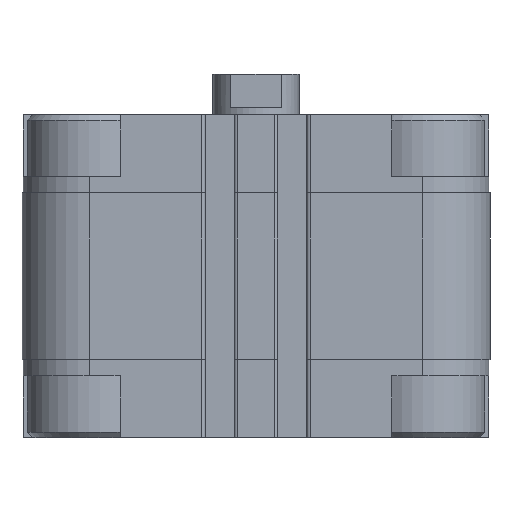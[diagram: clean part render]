
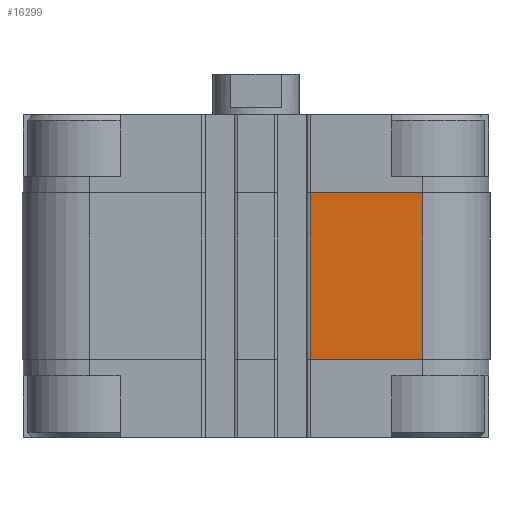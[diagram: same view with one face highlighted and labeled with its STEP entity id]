
A CAD part, front view. The second image highlights one B-rep face of the part: STEP entity #16299.
In plain terms, the highlighted planar face has unit normal (0, -1, 0).
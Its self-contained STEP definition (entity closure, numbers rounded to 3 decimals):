
#127 = ORIENTED_EDGE ( 'NONE', *, *, #8938, .T. ) ;
#408 = CARTESIAN_POINT ( 'NONE',  ( 10.05, -43.5, -45.5 ) ) ;
#1365 = EDGE_CURVE ( 'NONE', #4051, #17977, #17393, .T. ) ;
#1718 = VERTEX_POINT ( 'NONE', #15925 ) ;
#1903 = FACE_OUTER_BOUND ( 'NONE', #8397, .T. ) ;
#2244 = ORIENTED_EDGE ( 'NONE', *, *, #3087, .F. ) ;
#3087 = EDGE_CURVE ( 'NONE', #1718, #4051, #15387, .T. ) ;
#3539 = VECTOR ( 'NONE', #5177, 1000. ) ;
#4051 = VERTEX_POINT ( 'NONE', #5203 ) ;
#5089 = VECTOR ( 'NONE', #18517, 1000. ) ;
#5177 = DIRECTION ( 'NONE',  ( 1., 0., 0. ) ) ;
#5203 = CARTESIAN_POINT ( 'NONE',  ( 10.05, -43.5, -14.5 ) ) ;
#5384 = ORIENTED_EDGE ( 'NONE', *, *, #8969, .T. ) ;
#5566 = LINE ( 'NONE', #18605, #8180 ) ;
#6662 = CARTESIAN_POINT ( 'NONE',  ( 31., -43.5, -45.5 ) ) ;
#7731 = PLANE ( 'NONE',  #16380 ) ;
#8114 = LINE ( 'NONE', #6662, #5089 ) ;
#8180 = VECTOR ( 'NONE', #17339, 1000. ) ;
#8397 = EDGE_LOOP ( 'NONE', ( #13426, #2244, #127, #5384 ) ) ;
#8938 = EDGE_CURVE ( 'NONE', #1718, #11600, #5566, .T. ) ;
#8969 = EDGE_CURVE ( 'NONE', #11600, #17977, #8114, .T. ) ;
#9298 = DIRECTION ( 'NONE',  ( 0., -1., 0. ) ) ;
#9400 = DIRECTION ( 'NONE',  ( -1., 0., 0. ) ) ;
#9759 = CARTESIAN_POINT ( 'NONE',  ( 31., -43.5, -14.5 ) ) ;
#11600 = VERTEX_POINT ( 'NONE', #15156 ) ;
#13426 = ORIENTED_EDGE ( 'NONE', *, *, #1365, .F. ) ;
#15137 = CARTESIAN_POINT ( 'NONE',  ( 10.05, -43.5, -45.5 ) ) ;
#15156 = CARTESIAN_POINT ( 'NONE',  ( 31., -43.5, -45.5 ) ) ;
#15387 = LINE ( 'NONE', #408, #16858 ) ;
#15925 = CARTESIAN_POINT ( 'NONE',  ( 10.05, -43.5, -45.5 ) ) ;
#16299 = ADVANCED_FACE ( 'NONE', ( #1903 ), #7731, .T. ) ;
#16380 = AXIS2_PLACEMENT_3D ( 'NONE', #15137, #9298, #9400 ) ;
#16446 = DIRECTION ( 'NONE',  ( 0., 0., 1. ) ) ;
#16858 = VECTOR ( 'NONE', #16446, 1000. ) ;
#17339 = DIRECTION ( 'NONE',  ( 1., 0., 0. ) ) ;
#17393 = LINE ( 'NONE', #18851, #3539 ) ;
#17977 = VERTEX_POINT ( 'NONE', #9759 ) ;
#18517 = DIRECTION ( 'NONE',  ( 0., 0., 1. ) ) ;
#18605 = CARTESIAN_POINT ( 'NONE',  ( 10.05, -43.5, -45.5 ) ) ;
#18851 = CARTESIAN_POINT ( 'NONE',  ( 10.05, -43.5, -14.5 ) ) ;
